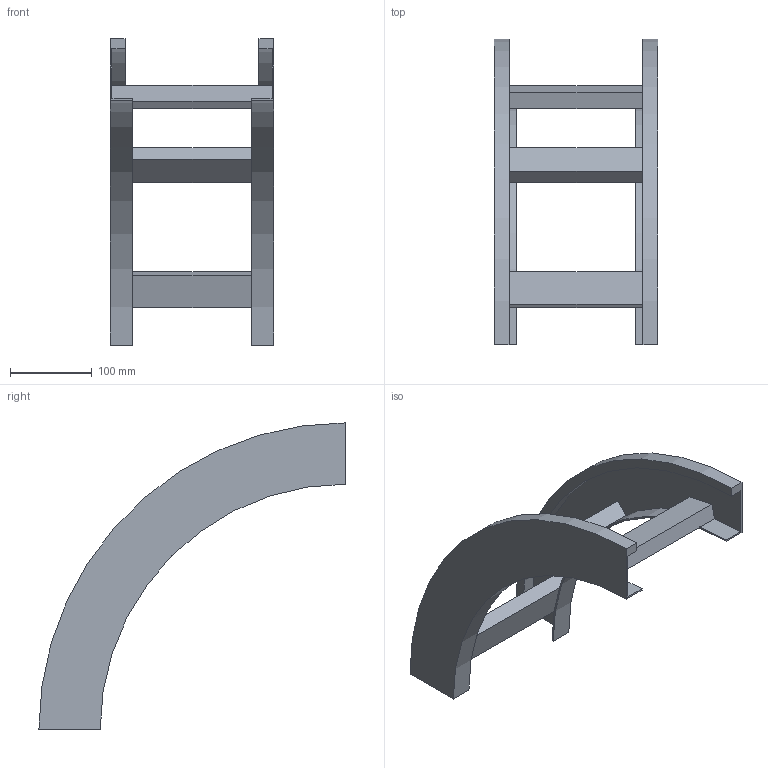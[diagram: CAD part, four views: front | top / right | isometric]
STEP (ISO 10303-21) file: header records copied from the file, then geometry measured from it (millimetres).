
FILE_DESCRIPTION (( 'STEP AP214' ), '1' );
FILE_NAME ('B2_33B3C200.step', '2025-02-21T15:05:57', ( '' ), ( '' ), 'SwSTEP 2.0', 'SolidWorks 2023', '' );
FILE_SCHEMA (( 'AUTOMOTIVE_DESIGN' ));
Length unit declared in the file: millimetre
Products named in the file (3): B2_33B3C200; TRAVERSINO_200; B2_LONGH.DISCESA_90°_H75_R300
Assembly tree (5 placements, depth 2):
  B2_33B3C200
    B2_LONGH.DISCESA_90°_H75_R300  x2
    TRAVERSINO_200  x3
Bounding box: 200 x 375 x 375 mm (x, y, z)
Volume: 905179.7 mm3; surface area: 325237.2 mm2
Topology: 5 solids, 5 shells, 38 faces, 84 edges, 56 vertices
Faces by surface type: plane 30, cylinder 8
Entity records: 560 total; most frequent: DIRECTION 92, CARTESIAN_POINT 84, ORIENTED_EDGE 72, EDGE_CURVE 36, AXIS2_PLACEMENT_3D 32, VECTOR 28, LINE 28, VERTEX_POINT 24
